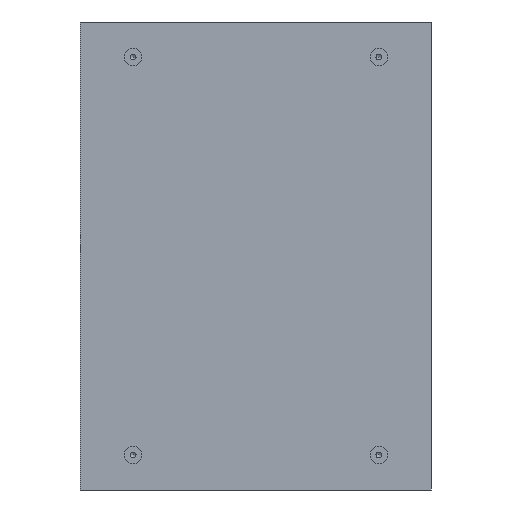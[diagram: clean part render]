
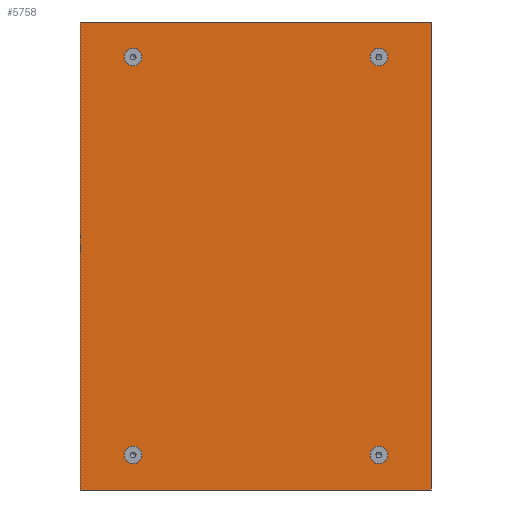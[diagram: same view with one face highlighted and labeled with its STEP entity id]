
A CAD part, left-side view. The second image highlights one B-rep face of the part: STEP entity #5758.
In plain terms, the highlighted planar face has unit normal (-1, 0, 0).
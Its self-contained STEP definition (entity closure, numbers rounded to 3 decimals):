
#483=CIRCLE('',#7652,5.125);
#485=CIRCLE('',#7655,5.125);
#487=CIRCLE('',#7658,5.125);
#488=CIRCLE('',#7688,5.125);
#1721=ORIENTED_EDGE('',*,*,#2693,.T.);
#1722=ORIENTED_EDGE('',*,*,#2694,.T.);
#1723=ORIENTED_EDGE('',*,*,#2695,.T.);
#1724=ORIENTED_EDGE('',*,*,#2696,.T.);
#1725=ORIENTED_EDGE('',*,*,#2565,.F.);
#1726=ORIENTED_EDGE('',*,*,#2567,.F.);
#1727=ORIENTED_EDGE('',*,*,#2569,.F.);
#1728=ORIENTED_EDGE('',*,*,#2697,.F.);
#2565=EDGE_CURVE('',#3167,#3167,#483,.T.);
#2567=EDGE_CURVE('',#3169,#3169,#485,.T.);
#2569=EDGE_CURVE('',#3171,#3171,#487,.T.);
#2693=EDGE_CURVE('',#3264,#3265,#3814,.T.);
#2694=EDGE_CURVE('',#3265,#3266,#3815,.T.);
#2695=EDGE_CURVE('',#3266,#3267,#3816,.T.);
#2696=EDGE_CURVE('',#3267,#3264,#3817,.T.);
#2697=EDGE_CURVE('',#3268,#3268,#488,.T.);
#3167=VERTEX_POINT('',#10629);
#3169=VERTEX_POINT('',#10634);
#3171=VERTEX_POINT('',#10639);
#3264=VERTEX_POINT('',#10885);
#3265=VERTEX_POINT('',#10886);
#3266=VERTEX_POINT('',#10888);
#3267=VERTEX_POINT('',#10890);
#3268=VERTEX_POINT('',#10893);
#3814=LINE('',#10884,#4358);
#3815=LINE('',#10887,#4359);
#3816=LINE('',#10889,#4360);
#3817=LINE('',#10891,#4361);
#4358=VECTOR('',#9141,1000.);
#4359=VECTOR('',#9142,1000.);
#4360=VECTOR('',#9143,1000.);
#4361=VECTOR('',#9144,1000.);
#4742=EDGE_LOOP('',(#1721,#1722,#1723,#1724));
#4743=EDGE_LOOP('',(#1725));
#4744=EDGE_LOOP('',(#1726));
#4745=EDGE_LOOP('',(#1727));
#4746=EDGE_LOOP('',(#1728));
#5164=FACE_BOUND('',#4742,.T.);
#5165=FACE_BOUND('',#4743,.T.);
#5166=FACE_BOUND('',#4744,.T.);
#5167=FACE_BOUND('',#4745,.T.);
#5168=FACE_BOUND('',#4746,.T.);
#5452=PLANE('',#7687);
#5758=ADVANCED_FACE('',(#5164,#5165,#5166,#5167,#5168),#5452,.T.);
#7652=AXIS2_PLACEMENT_3D('',#10628,#8946,#8947);
#7655=AXIS2_PLACEMENT_3D('',#10633,#8952,#8953);
#7658=AXIS2_PLACEMENT_3D('',#10638,#8958,#8959);
#7687=AXIS2_PLACEMENT_3D('',#10883,#9139,#9140);
#7688=AXIS2_PLACEMENT_3D('',#10892,#9145,#9146);
#8946=DIRECTION('',(-1.,0.,0.));
#8947=DIRECTION('',(0.,-1.,0.));
#8952=DIRECTION('',(-1.,0.,0.));
#8953=DIRECTION('',(0.,-1.,0.));
#8958=DIRECTION('',(-1.,0.,0.));
#8959=DIRECTION('',(0.,-1.,0.));
#9139=DIRECTION('',(-1.,0.,0.));
#9140=DIRECTION('',(0.,-1.,0.));
#9141=DIRECTION('',(0.,-1.,0.));
#9142=DIRECTION('',(0.,0.,1.));
#9143=DIRECTION('',(0.,1.,0.));
#9144=DIRECTION('',(0.,0.,-1.));
#9145=DIRECTION('',(-1.,0.,0.));
#9146=DIRECTION('',(0.,-1.,0.));
#10628=CARTESIAN_POINT('',(-1.2,105.,-170.));
#10629=CARTESIAN_POINT('',(-1.2,99.875,-170.));
#10633=CARTESIAN_POINT('',(-1.2,105.,170.));
#10634=CARTESIAN_POINT('',(-1.2,99.875,170.));
#10638=CARTESIAN_POINT('',(-1.2,-105.,-170.));
#10639=CARTESIAN_POINT('',(-1.2,-110.125,-170.));
#10883=CARTESIAN_POINT('',(-1.2,0.,0.));
#10884=CARTESIAN_POINT('',(-1.2,0.,-200.));
#10885=CARTESIAN_POINT('',(-1.2,150.,-200.));
#10886=CARTESIAN_POINT('',(-1.2,-150.,-200.));
#10887=CARTESIAN_POINT('',(-1.2,-150.,0.));
#10888=CARTESIAN_POINT('',(-1.2,-150.,200.));
#10889=CARTESIAN_POINT('',(-1.2,0.,200.));
#10890=CARTESIAN_POINT('',(-1.2,150.,200.));
#10891=CARTESIAN_POINT('',(-1.2,150.,0.));
#10892=CARTESIAN_POINT('',(-1.2,-105.,170.));
#10893=CARTESIAN_POINT('',(-1.2,-110.125,170.));
